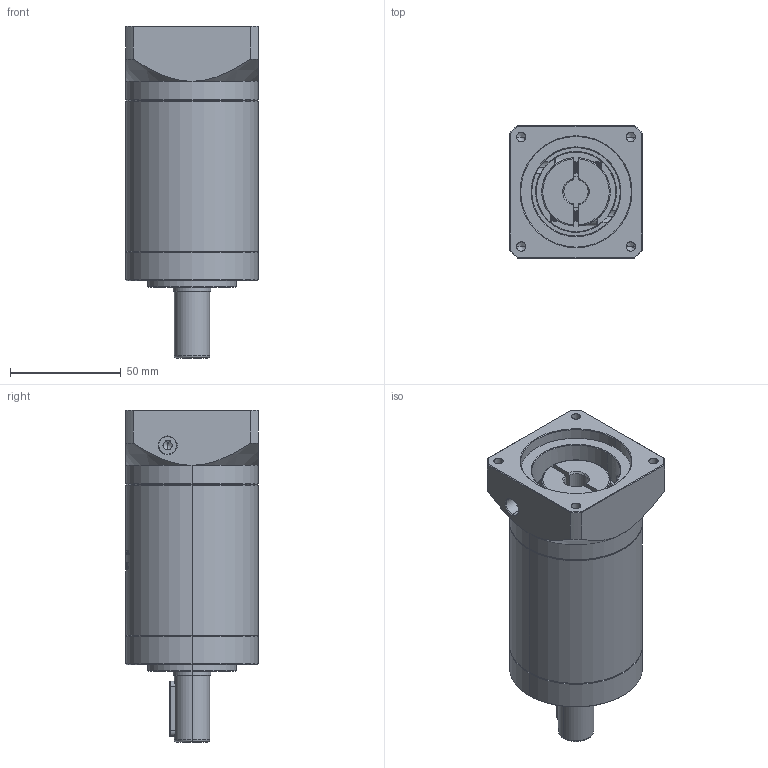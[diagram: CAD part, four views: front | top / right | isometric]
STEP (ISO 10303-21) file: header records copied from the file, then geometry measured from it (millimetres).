
FILE_DESCRIPTION (( 'STEP AP214' ), '1' );
FILE_NAME ('ZE60-D16-L3-11-50-70-M5.STEP', '2022-04-17T15:19:54', ( '' ), ( 'Microsoft' ), 'SwSTEP 2.0', 'SolidWorks 2016', '' );
FILE_SCHEMA (( 'AUTOMOTIVE_DESIGN' ));
Length unit declared in the file: millimetre
Products named in the file (1): ZE60-D16-L3-11-50-70-M5
Bounding box: 60 x 60 x 150 mm (x, y, z)
Volume: 313576 mm3; surface area: 49295.9 mm2
Topology: 6 solids, 6 shells, 1598 faces, 4328 edges, 2802 vertices
Faces by surface type: plane 724, cylinder 335, bspline 299, cone 222, torus 18
Entity records: 90507 total; most frequent: CARTESIAN_POINT 36418, ORIENTED_EDGE 8612, DIRECTION 6298, EDGE_CURVE 4306, VERTEX_POINT 2802, VECTOR 2204, LINE 2204, AXIS2_PLACEMENT_3D 2047
